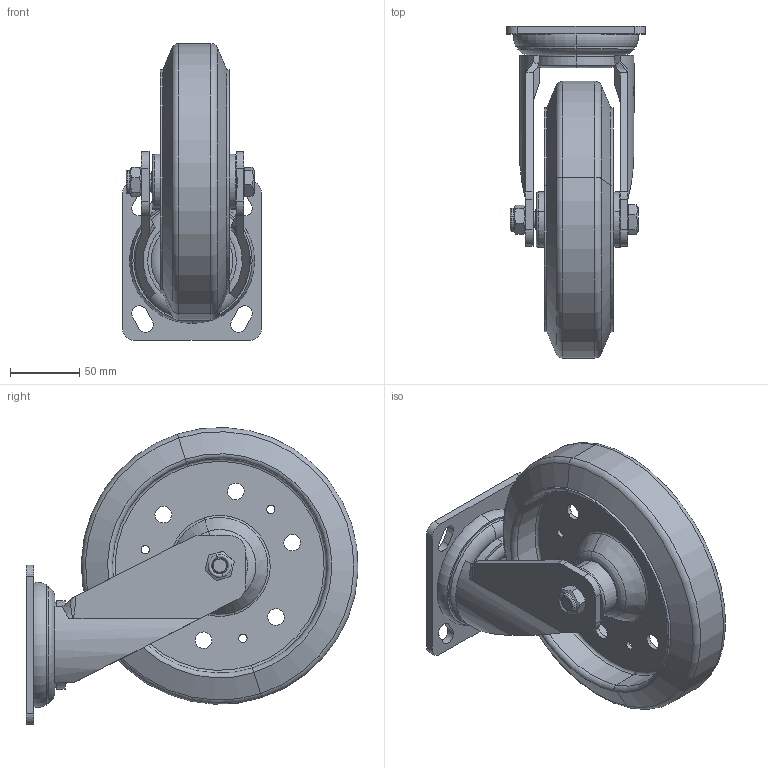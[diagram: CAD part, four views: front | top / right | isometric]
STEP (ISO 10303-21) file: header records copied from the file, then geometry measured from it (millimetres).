
FILE_DESCRIPTION (( 'STEP AP203' ), '1' );
FILE_NAME ('重型8寸万向.STEP', '2024-04-12T09:40:50', ( '微软用户' ), ( '微软中国' ), 'SwSTEP 2.0', 'SolidWorks 2008', '' );
FILE_SCHEMA (( 'CONFIG_CONTROL_DESIGN' ));
Length unit declared in the file: millimetre
Products named in the file (6): M7  8寸万向臂_默认; 8寸橡胶轮_默认; 笭倰8渡勀砃; M12螺母_默认; 12｡ﾁ85ﾂﾝｸﾋ_ﾄｬﾈﾏ; 重型万向底板_默认
Assembly tree (5 placements, depth 2):
  笭倰8渡勀砃
    8寸橡胶轮_默认
    12｡ﾁ85ﾂﾝｸﾋ_ﾄｬﾈﾏ
    重型万向底板_默认
    M12螺母_默认
    M7  8寸万向臂_默认
Bounding box: 100 x 239.82 x 214.49 mm (x, y, z)
Volume: 919189 mm3; surface area: 188975.1 mm2
Topology: 6 solids, 6 shells, 330 faces, 810 edges, 520 vertices
Faces by surface type: plane 118, cylinder 87, bspline 57, torus 44, cone 24
Entity records: 15492 total; most frequent: CARTESIAN_POINT 7283, ORIENTED_EDGE 1616, DIRECTION 1487, EDGE_CURVE 808, AXIS2_PLACEMENT_3D 567, VERTEX_POINT 520, EDGE_LOOP 394, VECTOR 353
